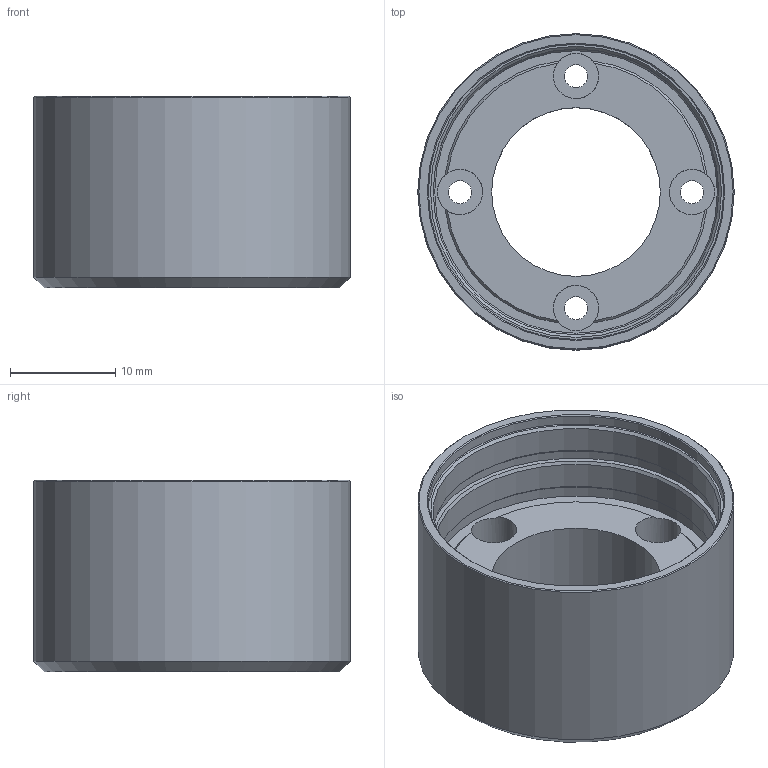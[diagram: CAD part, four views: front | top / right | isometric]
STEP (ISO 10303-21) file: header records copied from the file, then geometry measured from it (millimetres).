
FILE_DESCRIPTION(/* description */ (''),/* implementation_level */ '2;1');
FILE_NAME(/* name */ '30-1_flange_b.stp',/* time_stamp */ '2016-09-07T10:56:41+02:00',/* author */ ('DR. FRITZ FAULHABER GmbH & Co. KG'),/* organization */ ('DR. FRITZ FAULHABER GmbH & Co. KG'),/* preprocessor_version */ 'ST-DEVELOPER v16',/* originating_system */ 'SIEMENS PLM Software NX 10.0',/* authorisation */ '');
FILE_SCHEMA (('AUTOMOTIVE_DESIGN { 1 0 10303 214 3 1 1 1 }'));
Length unit declared in the file: millimetre
Products named in the file (1): F0200012035_I
Bounding box: 30 x 30 x 18.2 mm (x, y, z)
Volume: 5413.5 mm3; surface area: 4310.9 mm2
Topology: 1 solids, 1 shells, 38 faces, 99 edges, 75 vertices
Faces by surface type: cylinder 15, cone 12, plane 11
Full cylindrical faces by diameter (mm): 2.2 x4, 4.3 x4, 16 x1, 26.8 x1, 27.1 x1, 27.2 x1, 28 x2, 30 x1
Entity records: 1069 total; most frequent: DIRECTION 190, CARTESIAN_POINT 180, ORIENTED_EDGE 114, AXIS2_PLACEMENT_3D 92, EDGE_LOOP 76, FACE_BOUND 72, EDGE_CURVE 57, CIRCLE 53
